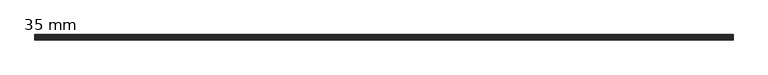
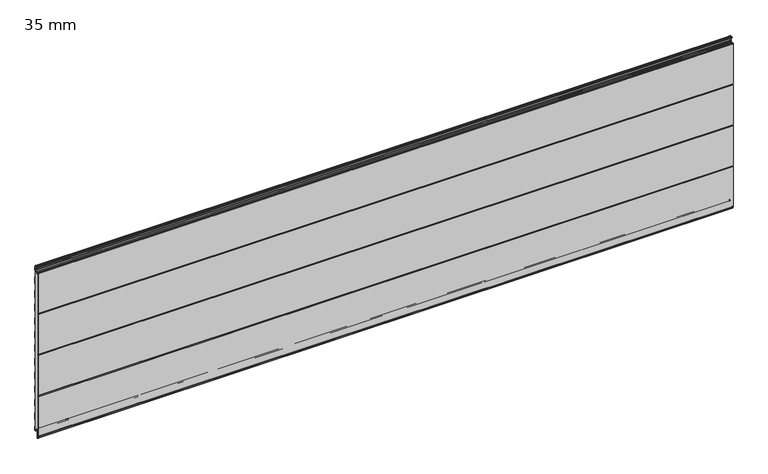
"""IFC4 building model written with IfcOpenShell, lengths in millimetres: plate geometry, HIANSA PANEL - H20.F02.003-PANELES DE FACHADA HORIZONTAL - PANEL SEMILISO - Panel de Muro Cortina : 35 mm."""

from ifc_helpers import new_model, si_unit, point, frame, frame_2d, origin, place, context, project, spatial, polyline, circle_curve, trimmed, segment, composite_curve, outline, extrude, source, transform, mapped, element, save


def plate_35_mm_059ea82e(model_context):
    return source(origin(), model_context, "Body", "SweptSolid", [
        extrude(outline(polyline([(-18.7988607, 1122.7800953), (-18.0080812, 1123.2810465), (-13.7002601, 1123.2810465), (-12.8994274, 1122.7800953), (-18.7988607, 1122.7800953)])), frame((-2200.0, 0.0, 0.0), z_axis=(1.0, 0.0, 0.0), x_axis=(0.0, 1.0, 0.0)), (0.0, 0.0, 1.0), 4400.0),
        extrude(outline(polyline([(-18.7713844, 25.3200953), (-12.9220626, 25.3200953), (-13.7002597, 24.8210465), (-18.011032, 24.8210465), (-18.7713844, 25.3200953)])), frame((-2200.0, 0.0, 0.0), z_axis=(1.0, 0.0, 0.0), x_axis=(0.0, 1.0, 0.0)), (0.0, 0.0, 1.0), 4400.0),
        extrude(outline(composite_curve([segment(polyline([(-34.9990488, 261.2060325), (-33.4829198, 265.1645587), (-34.9990488, 269.1230849), (-34.9990488, 536.2060325), (-33.4829198, 540.1645587), (-34.9990488, 544.1230849), (-34.9990488, 811.2060325), (-33.4829198, 815.1645587), (-34.9990488, 819.1230849), (-34.9990488, 1086.1667807), (-34.3593999, 1088.7253764)]), True, "CONTINUOUS"), segment(trimmed(circle_curve(frame_2d((-32.5161291, 1088.2645587)), 1.9), [point((-34.3593999, 1088.7253764))], [point((-32.5161291, 1090.1645587))], False, "CARTESIAN"), True, "CONTINUOUS"), segment(polyline([(-32.5161291, 1090.1645587), (-30.3767084, 1090.1645587)]), True, "CONTINUOUS"), segment(trimmed(circle_curve(frame_2d((-30.3767084, 1089.1645587)), 1.0), [point((-30.3767084, 1090.1645587))], [point((-29.3767084, 1089.1645587))], False, "CARTESIAN"), True, "CONTINUOUS"), segment(polyline([(-29.3767084, 1089.1645587), (-29.3767084, 1079.2490488)]), True, "CONTINUOUS"), segment(trimmed(circle_curve(frame_2d((-28.3767084, 1079.2490488)), 1.0), [point((-29.3767084, 1079.2490488))], [point((-28.3767084, 1078.2490488))], True, "CARTESIAN"), True, "CONTINUOUS"), segment(polyline([(-28.3767084, 1078.2490488), (-24.1267084, 1078.2490488)]), True, "CONTINUOUS"), segment(trimmed(circle_curve(frame_2d((-24.1267084, 1079.2490488)), 1.0), [point((-24.1267084, 1078.2490488))], [point((-23.1267084, 1079.2490488))], True, "CARTESIAN"), True, "CONTINUOUS"), segment(polyline([(-23.1267084, 1079.2490488), (-23.1267084, 1082.1003519)]), True, "CONTINUOUS"), segment(trimmed(circle_curve(frame_2d((-21.1267084, 1082.1003519)), 2.0), [point((-23.1267084, 1082.1003519))], [point((-22.2738613, 1083.738656))], False, "CARTESIAN"), True, "CONTINUOUS"), segment(polyline([(-22.2738613, 1083.738656), (-16.2163437, 1087.9801754)]), True, "CONTINUOUS"), segment(trimmed(circle_curve(frame_2d((-17.0767084, 1089.2089035)), 1.5), [point((-16.2163437, 1087.9801754))], [point((-15.5767084, 1089.2089035))], True, "CARTESIAN"), True, "CONTINUOUS"), segment(polyline([(-15.5767084, 1089.2089035), (-15.5767084, 1098.4402031), (-14.6767084, 1099.9990488), (-15.5767084, 1101.5578945), (-15.5767084, 1110.7891941)]), True, "CONTINUOUS"), segment(trimmed(circle_curve(frame_2d((-17.0767084, 1110.7891941)), 1.5), [point((-15.5767084, 1110.7891941))], [point((-16.2163437, 1112.0179221))], True, "CARTESIAN"), True, "CONTINUOUS"), segment(polyline([(-16.2163437, 1112.0179221), (-22.2738613, 1116.2594416)]), True, "CONTINUOUS"), segment(trimmed(circle_curve(frame_2d((-21.1267084, 1117.8977457)), 2.0), [point((-22.2738613, 1116.2594416))], [point((-23.1267084, 1117.8977457))], False, "CARTESIAN"), True, "CONTINUOUS"), segment(polyline([(-23.1267084, 1117.8977457), (-23.1267084, 1121.2800953)]), True, "CONTINUOUS"), segment(trimmed(circle_curve(frame_2d((-21.1267084, 1121.2800953)), 2.0), [point((-23.1267084, 1121.2800953))], [point((-21.1267084, 1123.2800953))], False, "CARTESIAN"), True, "CONTINUOUS"), segment(polyline([(-21.1267084, 1123.2800953), (-18.0095828, 1123.2800953), (-18.7988607, 1122.7800953), (-21.1267084, 1122.7800953)]), True, "CONTINUOUS"), segment(trimmed(circle_curve(frame_2d((-21.1267084, 1121.2800953)), 1.5), [point((-21.1267084, 1122.7800953))], [point((-22.6267084, 1121.2800953))], True, "CARTESIAN"), True, "CONTINUOUS"), segment(polyline([(-22.6267084, 1121.2800953), (-22.6267084, 1117.8977457)]), True, "CONTINUOUS"), segment(trimmed(circle_curve(frame_2d((-21.1267084, 1117.8977457)), 1.5), [point((-22.6267084, 1117.8977457))], [point((-21.987073, 1116.6690176))], True, "CARTESIAN"), True, "CONTINUOUS"), segment(polyline([(-21.987073, 1116.6690176), (-15.9295555, 1112.4274982)]), True, "CONTINUOUS"), segment(trimmed(circle_curve(frame_2d((-17.0767084, 1110.7891941)), 2.0), [point((-15.9295555, 1112.4274982))], [point((-15.0767084, 1110.7891941))], False, "CARTESIAN"), True, "CONTINUOUS"), segment(polyline([(-15.0767084, 1110.7891941), (-15.0767084, 1101.6918691), (-14.3880333, 1100.4990488)]), True, "CONTINUOUS"), segment(trimmed(circle_curve(frame_2d((-15.2540587, 1099.9990488)), 1.0), [point((-14.3880333, 1100.4990488))], [point((-14.3880333, 1099.4990488))], False, "CARTESIAN"), True, "CONTINUOUS"), segment(polyline([(-14.3880333, 1099.4990488), (-15.0767084, 1098.3062285), (-15.0767084, 1089.2089035)]), True, "CONTINUOUS"), segment(trimmed(circle_curve(frame_2d((-17.0767084, 1089.2089035)), 2.0), [point((-15.0767084, 1089.2089035))], [point((-15.9295555, 1087.5705994))], False, "CARTESIAN"), True, "CONTINUOUS"), segment(polyline([(-15.9295555, 1087.5705994), (-21.987073, 1083.32908)]), True, "CONTINUOUS"), segment(trimmed(circle_curve(frame_2d((-21.1267084, 1082.1003519)), 1.5), [point((-21.987073, 1083.32908))], [point((-22.6267084, 1082.1003519))], True, "CARTESIAN"), True, "CONTINUOUS"), segment(polyline([(-22.6267084, 1082.1003519), (-22.6267084, 1079.2490488)]), True, "CONTINUOUS"), segment(trimmed(circle_curve(frame_2d((-24.1267084, 1079.2490488)), 1.5), [point((-22.6267084, 1079.2490488))], [point((-24.1267084, 1077.7490488))], False, "CARTESIAN"), True, "CONTINUOUS"), segment(polyline([(-24.1267084, 1077.7490488), (-28.3767084, 1077.7490488)]), True, "CONTINUOUS"), segment(trimmed(circle_curve(frame_2d((-28.3767084, 1079.2490488)), 1.5), [point((-28.3767084, 1077.7490488))], [point((-29.8767084, 1079.2490488))], False, "CARTESIAN"), True, "CONTINUOUS"), segment(polyline([(-29.8767084, 1079.2490488), (-29.8767084, 1089.6645587), (-32.5161291, 1089.6645587)]), True, "CONTINUOUS"), segment(trimmed(circle_curve(frame_2d((-32.5161291, 1088.2645587)), 1.4), [point((-32.5161291, 1089.6645587))], [point((-33.8743286, 1088.6041086))], True, "CARTESIAN"), True, "CONTINUOUS"), segment(polyline([(-33.8743286, 1088.6041086), (-34.4990488, 1086.1052279), (-34.4990488, 819.2053746), (-32.9514025, 815.1645587), (-34.4990488, 811.1237428), (-34.4990488, 544.2053746), (-32.9514025, 540.1645587), (-34.4990488, 536.1237428), (-34.4990488, 269.2053746), (-32.9514025, 265.1645587), (-34.4990488, 261.1237428), (-34.4990488, -5.7761105), (-33.8741312, -8.2757808)]), True, "CONTINUOUS"), segment(trimmed(circle_curve(frame_2d((-32.5169431, -7.9364838)), 1.3989577), [point((-33.8741312, -8.2757808))], [point((-32.5169431, -9.3354415))], True, "CARTESIAN"), True, "CONTINUOUS"), segment(polyline([(-32.5169431, -9.3354415), (-30.1267084, -9.3354413)]), True, "CONTINUOUS"), segment(trimmed(circle_curve(frame_2d((-30.1267084, -10.8354413)), 1.5), [point((-30.1267084, -9.3354413))], [point((-28.6267084, -10.8354413))], False, "CARTESIAN"), True, "CONTINUOUS"), segment(polyline([(-28.6267084, -10.8354413), (-28.6267084, -20.7509512), (-23.8767084, -20.7509512), (-23.8767084, 22.7800953)]), True, "CONTINUOUS"), segment(trimmed(circle_curve(frame_2d((-21.3367084, 22.7800953)), 2.54), [point((-23.8767084, 22.7800953))], [point((-21.3367084, 25.3200953))], False, "CARTESIAN"), True, "CONTINUOUS"), segment(polyline([(-21.3367084, 25.3200953), (-18.7713844, 25.3200953), (-18.0095828, 24.8200953), (-21.3367084, 24.8200953)]), True, "CONTINUOUS"), segment(trimmed(circle_curve(frame_2d((-21.3367084, 22.7800953)), 2.04), [point((-21.3367084, 24.8200953))], [point((-23.3767084, 22.7800953))], True, "CARTESIAN"), True, "CONTINUOUS"), segment(polyline([(-23.3767084, 22.7800953), (-23.3767084, -20.2509512)]), True, "CONTINUOUS"), segment(trimmed(circle_curve(frame_2d((-24.3767084, -20.2509512)), 1.0), [point((-23.3767084, -20.2509512))], [point((-24.3767084, -21.2509512))], False, "CARTESIAN"), True, "CONTINUOUS"), segment(polyline([(-24.3767084, -21.2509512), (-28.1267084, -21.2509512)]), True, "CONTINUOUS"), segment(trimmed(circle_curve(frame_2d((-28.1267084, -20.2509512)), 1.0), [point((-28.1267084, -21.2509512))], [point((-29.1267084, -20.2509512))], False, "CARTESIAN"), True, "CONTINUOUS"), segment(polyline([(-29.1267084, -20.2509512), (-29.1267084, -10.8354413)]), True, "CONTINUOUS"), segment(trimmed(circle_curve(frame_2d((-30.1267084, -10.8354413)), 1.0), [point((-29.1267084, -10.8354413))], [point((-30.1267084, -9.8354413))], True, "CARTESIAN"), True, "CONTINUOUS"), segment(polyline([(-30.1267084, -9.8354413), (-32.5161291, -9.8354413)]), True, "CONTINUOUS"), segment(trimmed(circle_curve(frame_2d((-32.5161291, -7.9354413)), 1.9), [point((-32.5161291, -9.8354413))], [point((-34.3593999, -8.396259))], False, "CARTESIAN"), True, "CONTINUOUS"), segment(polyline([(-34.3593999, -8.396259), (-34.9990488, -5.8376633), (-34.9990488, 261.2060325)]), True, "CONTINUOUS")], self_intersect=False)), frame((-2200.0, 0.0, 0.0), z_axis=(1.0, 0.0, 0.0), x_axis=(0.0, 1.0, 0.0)), (0.0, 0.0, 1.0), 4400.0),
        extrude(outline(composite_curve([segment(polyline([(-34.4927405, -5.8041988), (-34.4927405, 261.1436493), (-32.9523542, 265.16551), (-34.5000005, 269.2063259), (-34.5000005, 536.1246941), (-32.9523542, 540.16551), (-34.5000005, 544.2063259), (-34.5000005, 811.1246941), (-32.9523542, 815.16551), (-34.4927405, 819.1873707), (-34.4927405, 1086.1352189), (-33.8752803, 1088.6050599)]), True, "CONTINUOUS"), segment(trimmed(circle_curve(frame_2d((-32.5170808, 1088.26551)), 1.4), [point((-33.8752803, 1088.6050599))], [point((-32.5170808, 1089.66551))], False, "CARTESIAN"), True, "CONTINUOUS"), segment(polyline([(-32.5170808, 1089.66551), (-29.8776601, 1089.66551), (-29.8776601, 1079.2500001)]), True, "CONTINUOUS"), segment(trimmed(circle_curve(frame_2d((-28.3776601, 1079.2500001)), 1.5), [point((-29.8776601, 1079.2500001))], [point((-28.3776601, 1077.7500001))], True, "CARTESIAN"), True, "CONTINUOUS"), segment(polyline([(-28.3776601, 1077.7500001), (-24.1276601, 1077.7500001)]), True, "CONTINUOUS"), segment(trimmed(circle_curve(frame_2d((-24.1276601, 1079.2500001)), 1.5), [point((-24.1276601, 1077.7500001))], [point((-22.6276601, 1079.2500001))], True, "CARTESIAN"), True, "CONTINUOUS"), segment(polyline([(-22.6276601, 1079.2500001), (-22.6276601, 1082.1013032)]), True, "CONTINUOUS"), segment(trimmed(circle_curve(frame_2d((-21.1276601, 1082.1013032)), 1.5), [point((-22.6276601, 1082.1013032))], [point((-21.9880247, 1083.3300313))], False, "CARTESIAN"), True, "CONTINUOUS"), segment(polyline([(-21.9880247, 1083.3300313), (-15.9305072, 1087.5715507)]), True, "CONTINUOUS"), segment(trimmed(circle_curve(frame_2d((-17.0776601, 1089.2098548)), 2.0), [point((-15.9305072, 1087.5715507))], [point((-15.0776601, 1089.2098548))], True, "CARTESIAN"), True, "CONTINUOUS"), segment(polyline([(-15.0776601, 1089.2098548), (-15.0776601, 1098.3071798), (-14.3889849, 1099.5000001)]), True, "CONTINUOUS"), segment(trimmed(circle_curve(frame_2d((-15.2550103, 1100.0000001)), 1.0), [point((-14.3889849, 1099.5000001))], [point((-14.3889849, 1100.5000001))], True, "CARTESIAN"), True, "CONTINUOUS"), segment(polyline([(-14.3889849, 1100.5000001), (-15.0776601, 1101.6928204), (-15.0776601, 1110.7901454)]), True, "CONTINUOUS"), segment(trimmed(circle_curve(frame_2d((-17.0776601, 1110.7901454)), 2.0), [point((-15.0776601, 1110.7901454))], [point((-15.9305072, 1112.4284495))], True, "CARTESIAN"), True, "CONTINUOUS"), segment(polyline([(-15.9305072, 1112.4284495), (-21.9880247, 1116.6699689)]), True, "CONTINUOUS"), segment(trimmed(circle_curve(frame_2d((-21.1276601, 1117.898697)), 1.5), [point((-21.9880247, 1116.6699689))], [point((-22.6276601, 1117.898697))], False, "CARTESIAN"), True, "CONTINUOUS"), segment(polyline([(-22.6276601, 1117.898697), (-22.6276601, 1121.2810466)]), True, "CONTINUOUS"), segment(trimmed(circle_curve(frame_2d((-21.1276601, 1121.2810466)), 1.5), [point((-22.6276601, 1121.2810466))], [point((-21.1276601, 1122.7810466))], False, "CARTESIAN"), True, "CONTINUOUS"), segment(polyline([(-21.1276601, 1122.7810466), (-7.7500005, 1122.7810466)]), True, "CONTINUOUS"), segment(trimmed(circle_curve(frame_2d((-7.7500005, 1121.7810466)), 1.0), [point((-7.7500005, 1122.7810466))], [point((-6.7500005, 1121.7810466))], False, "CARTESIAN"), True, "CONTINUOUS"), segment(polyline([(-6.7500005, 1121.7810466), (-6.7500005, 1115.631732)]), True, "CONTINUOUS"), segment(trimmed(circle_curve(frame_2d((-4.7460005, 1115.631732)), 2.004), [point((-6.7500005, 1115.631732))], [point((-4.7460005, 1113.627732))], True, "CARTESIAN"), True, "CONTINUOUS"), segment(polyline([(-4.7460005, 1113.627732), (-1.5, 1113.627732)]), True, "CONTINUOUS"), segment(trimmed(circle_curve(frame_2d((-1.5, 1112.627732)), 1.0), [point((-1.5, 1113.627732))], [point((-0.5, 1112.627732))], False, "CARTESIAN"), True, "CONTINUOUS"), segment(polyline([(-0.5, 1112.627732), (-0.5, 1087.7488722), (-1.5000005, 1084.7488708), (-1.5000005, 1044.5865932), (-0.5000005, 1041.5865932), (-0.5000005, 996.7488708), (-1.5000005, 993.7488708), (-1.5000005, 953.5865932), (-0.5000005, 950.5865932), (-0.5000005, 905.7488708), (-1.5000005, 902.7488708), (-1.5000005, 862.5865932), (-0.5000005, 859.5865932), (-0.5000005, 814.7488708), (-1.5000005, 811.7488708), (-1.5000005, 771.5865932), (-0.5000005, 768.5865932), (-0.5000005, 723.7488708), (-1.5000005, 720.7488708), (-1.5000005, 680.5865932), (-0.5000005, 677.5865932), (-0.5000005, 632.7488708), (-1.5000005, 629.7488708), (-1.5000005, 589.5865932), (-0.5000005, 586.5865932), (-0.5000005, 541.7488708), (-1.5000005, 538.7488708), (-1.5000005, 498.5865932), (-0.5000005, 495.5865932), (-0.5000005, 450.7488708), (-1.5000005, 447.7488708), (-1.5000005, 407.5865932), (-0.5000005, 404.5865932), (-0.5000005, 359.7488708), (-1.5000005, 356.7488708), (-1.5000005, 316.5865932), (-0.5000005, 313.5865932), (-0.5000005, 268.7488708), (-1.5000005, 265.7488708), (-1.5000005, 225.5865932), (-0.5000005, 222.5865932), (-0.5000005, 177.7488708), (-1.5000005, 174.7488708), (-1.5000005, 134.5865932), (-0.5000005, 131.5865932), (-0.5000005, 86.7488708), (-1.5000005, 83.7488708), (-1.5000005, 43.5865932), (-0.5, 40.5865932), (-0.5, 15.6677319)]), True, "CONTINUOUS"), segment(trimmed(circle_curve(frame_2d((-1.4999997, 15.6677319)), 0.9999997), [point((-0.5, 15.6677319))], [point((-1.4999977, 14.6677322))], False, "CARTESIAN"), True, "CONTINUOUS"), segment(polyline([(-1.4999977, 14.6677322), (-4.4999978, 14.6677261)]), True, "CONTINUOUS"), segment(trimmed(circle_curve(frame_2d((-4.4999998, 15.6677321)), 1.0000061), [point((-4.4999978, 14.6677261))], [point((-5.5000059, 15.6677321))], False, "CARTESIAN"), True, "CONTINUOUS"), segment(polyline([(-5.5000059, 15.6677321), (-5.5000059, 23.2810466)]), True, "CONTINUOUS"), segment(trimmed(circle_curve(frame_2d((-7.540006, 23.2810466)), 2.0400002), [point((-5.5000059, 23.2810466))], [point((-7.540006, 25.3210467))], True, "CARTESIAN"), True, "CONTINUOUS"), segment(polyline([(-7.540006, 25.3210467), (-21.3376599, 25.3210467)]), True, "CONTINUOUS"), segment(trimmed(circle_curve(frame_2d((-21.3376599, 22.7810466)), 2.5400001), [point((-21.3376599, 25.3210467))], [point((-23.8776601, 22.7810466))], True, "CARTESIAN"), True, "CONTINUOUS"), segment(polyline([(-23.8776601, 22.7810466), (-23.8776601, -20.7499999), (-28.6276601, -20.7499999), (-28.6276601, -10.83449)]), True, "CONTINUOUS"), segment(trimmed(circle_curve(frame_2d((-30.1276601, -10.83449)), 1.5), [point((-28.6276601, -10.83449))], [point((-30.1276601, -9.33449))], True, "CARTESIAN"), True, "CONTINUOUS"), segment(polyline([(-30.1276601, -9.33449), (-32.5178947, -9.33449)]), True, "CONTINUOUS"), segment(trimmed(circle_curve(frame_2d((-32.5178947, -7.9355324)), 1.3989576), [point((-32.5178947, -9.33449))], [point((-33.8750829, -8.2748295))], False, "CARTESIAN"), True, "CONTINUOUS"), segment(polyline([(-33.8750829, -8.2748295), (-34.4927405, -5.8041988)]), True, "CONTINUOUS")], self_intersect=False)), frame((-2200.0, 0.0, 0.0), z_axis=(1.0, 0.0, 0.0), x_axis=(0.0, 1.0, 0.0)), (0.0, 0.0, 1.0), 4400.0),
        extrude(outline(composite_curve([segment(polyline([(-13.7002597, 24.8210465), (-12.9205793, 25.3210465), (-7.5400057, 25.3210465)]), True, "CONTINUOUS"), segment(trimmed(circle_curve(frame_2d((-7.5400057, 23.2810465)), 2.04), [point((-7.5400057, 25.3210465))], [point((-5.5000057, 23.2810465))], False, "CARTESIAN"), True, "CONTINUOUS"), segment(polyline([(-5.5000057, 23.2810465), (-5.5000057, 15.6677319)]), True, "CONTINUOUS"), segment(trimmed(circle_curve(frame_2d((-4.5, 15.6677319)), 1.0000057), [point((-5.5000057, 15.6677319))], [point((-4.4999981, 14.6677262))], True, "CARTESIAN"), True, "CONTINUOUS"), segment(polyline([(-4.4999981, 14.6677262), (-1.4999981, 14.6677319)]), True, "CONTINUOUS"), segment(trimmed(circle_curve(frame_2d((-1.5, 15.6677319)), 1.0), [point((-1.4999981, 14.6677319))], [point((-0.5, 15.6677319))], True, "CARTESIAN"), True, "CONTINUOUS"), segment(polyline([(-0.5, 15.6677319), (-0.5, 40.5865931), (-1.5, 43.5865931), (-1.5, 83.7488708), (-0.5, 86.7488708), (-0.5, 131.5865931), (-1.5, 134.5865931), (-1.5, 174.7488708), (-0.5, 177.7488708), (-0.5, 222.5865931), (-1.5, 225.5865931), (-1.5, 265.7488708), (-0.5, 268.7488708), (-0.5, 313.5865931), (-1.5, 316.5865931), (-1.5, 356.7488708), (-0.5, 359.7488708), (-0.5, 404.5865931), (-1.5, 407.5865931), (-1.5, 447.7488708), (-0.5, 450.7488708), (-0.5, 495.5865931), (-1.5, 498.5865931), (-1.5, 538.7488708), (-0.5, 541.7488708), (-0.5, 586.5865931), (-1.5, 589.5865931), (-1.5, 629.7488708), (-0.5, 632.7488708), (-0.5, 677.5865931), (-1.5, 680.5865931), (-1.5, 720.7488708), (-0.5, 723.7488708), (-0.5, 768.5865931), (-1.5, 771.5865931), (-1.5, 811.7488708), (-0.5, 814.7488708), (-0.5, 859.5865931), (-1.5, 862.5865931), (-1.5, 902.7488708), (-0.5, 905.7488708), (-0.5, 950.5865931), (-1.5, 953.5865931), (-1.5, 993.7488708), (-0.5, 996.7488708), (-0.5, 1041.5865931), (-1.5, 1044.5865931), (-1.5, 1084.7488708), (-0.5, 1087.7488708), (-0.5, 1112.6277319)]), True, "CONTINUOUS"), segment(trimmed(circle_curve(frame_2d((-1.5, 1112.6277319)), 1.0), [point((-0.5, 1112.6277319))], [point((-1.5, 1113.6277319))], True, "CARTESIAN"), True, "CONTINUOUS"), segment(polyline([(-1.5, 1113.6277319), (-4.746, 1113.6277319)]), True, "CONTINUOUS"), segment(trimmed(circle_curve(frame_2d((-4.746, 1115.6317319)), 2.004), [point((-4.746, 1113.6277319))], [point((-6.75, 1115.6317319))], False, "CARTESIAN"), True, "CONTINUOUS"), segment(polyline([(-6.75, 1115.6317319), (-6.75, 1121.7810465)]), True, "CONTINUOUS"), segment(trimmed(circle_curve(frame_2d((-7.75, 1121.7810465)), 1.0), [point((-6.75, 1121.7810465))], [point((-7.75, 1122.7810465))], True, "CARTESIAN"), True, "CONTINUOUS"), segment(polyline([(-7.75, 1122.7810465), (-12.9009477, 1122.7810465), (-13.7002597, 1123.2810465), (-7.7500057, 1123.2810465)]), True, "CONTINUOUS"), segment(trimmed(circle_curve(frame_2d((-7.7500057, 1121.7810465)), 1.5), [point((-7.7500057, 1123.2810465))], [point((-6.2500057, 1121.7810465))], False, "CARTESIAN"), True, "CONTINUOUS"), segment(polyline([(-6.2500057, 1121.7810465), (-6.2500057, 1115.631727)]), True, "CONTINUOUS"), segment(trimmed(circle_curve(frame_2d((-4.7460057, 1115.631727)), 1.504), [point((-6.2500057, 1115.631727))], [point((-4.7460034, 1114.127727))], True, "CARTESIAN"), True, "CONTINUOUS"), segment(polyline([(-4.7460034, 1114.127727), (-1.5000023, 1114.1277319)]), True, "CONTINUOUS"), segment(trimmed(circle_curve(frame_2d((-1.5, 1112.6277319)), 1.5), [point((-1.5000023, 1114.1277319))], [point((0.0, 1112.6277319))], False, "CARTESIAN"), True, "CONTINUOUS"), segment(polyline([(0.0, 1112.6277319), (0.0, 1087.6677319), (-1.0, 1084.6677319), (-1.0, 1044.6677319), (0.0, 1041.6677319), (0.0, 996.6677319), (-1.0, 993.6677319), (-1.0, 953.6677319), (0.0, 950.6677319), (0.0, 905.6677319), (-1.0, 902.6677319), (-1.0, 862.6677319), (0.0, 859.6677319), (0.0, 814.6677319), (-1.0, 811.6677319), (-1.0, 771.6677319), (0.0, 768.6677319), (0.0, 723.6677319), (-1.0, 720.6677319), (-1.0, 680.6677319), (0.0, 677.6677319), (0.0, 632.6677319), (-1.0, 629.6677319), (-1.0, 589.6677319), (0.0, 586.6677319), (0.0, 541.6677319), (-1.0, 538.6677319), (-1.0, 498.6677319), (0.0, 495.6677319), (0.0, 450.6677319), (-1.0, 447.6677319), (-1.0, 407.6677319), (0.0, 404.6677319), (0.0, 359.6677319), (-1.0, 356.6677319), (-1.0, 316.6677319), (0.0, 313.6677319), (0.0, 268.6677319), (-1.0, 265.6677319), (-1.0, 225.6677319), (0.0, 222.6677319), (0.0, 177.6677319), (-1.0, 174.6677319), (-1.0, 134.6677319), (0.0, 131.6677319), (0.0, 86.6677319), (-1.0, 83.6677319), (-1.0, 43.6677319), (0.0, 40.6677319), (0.0, 15.6677319)]), True, "CONTINUOUS"), segment(trimmed(circle_curve(frame_2d((-1.5, 15.6677319)), 1.5), [point((0.0, 15.6677319))], [point((-1.5, 14.1677319))], False, "CARTESIAN"), True, "CONTINUOUS"), segment(polyline([(-1.5, 14.1677319), (-4.5, 14.1677319)]), True, "CONTINUOUS"), segment(trimmed(circle_curve(frame_2d((-4.5, 15.6677319)), 1.5), [point((-4.5, 14.1677319))], [point((-6.0, 15.6677319))], False, "CARTESIAN"), True, "CONTINUOUS"), segment(polyline([(-6.0, 15.6677319), (-6.0, 23.2810465)]), True, "CONTINUOUS"), segment(trimmed(circle_curve(frame_2d((-7.54, 23.2810465)), 1.54), [point((-6.0, 23.2810465))], [point((-7.54, 24.8210465))], True, "CARTESIAN"), True, "CONTINUOUS"), segment(polyline([(-7.54, 24.8210465), (-13.7002597, 24.8210465)]), True, "CONTINUOUS")], self_intersect=False)), frame((-2200.0, 0.0, 0.0), z_axis=(1.0, 0.0, 0.0), x_axis=(0.0, 1.0, 0.0)), (0.0, 0.0, 1.0), 4400.0),
    ])


if __name__ == "__main__":
    model = new_model("IFC4")
    model_context = context("Model", 3, world=origin())
    ifc_project = project(units=[si_unit("LENGTHUNIT", "METRE", prefix="MILLI")], contexts=[model_context])
    site = spatial("IfcSite", under=ifc_project)
    building = spatial("IfcBuilding", under=site)
    placement = place(None, origin())
    plate_35_mm_shape = plate_35_mm_059ea82e(model_context)
    element("IfcPlate", 1, ObjectType="HIANSA PANEL - H20.F02.003-PANELES DE FACHADA HORIZONTAL - PANEL SEMILISO - Panel de Muro Cortina : 35 mm", at=placement, inside=building, context=model_context, shape_type="MappedRepresentation", body=[
        mapped(plate_35_mm_shape, transform((0.0, 0.0, 0.0), x_axis=(1.0, 0.0, 0.0), y_axis=(0.0, 1.0, 0.0), z_axis=(0.0, 0.0, 1.0))),
    ])
    save(model, "model.ifc")
